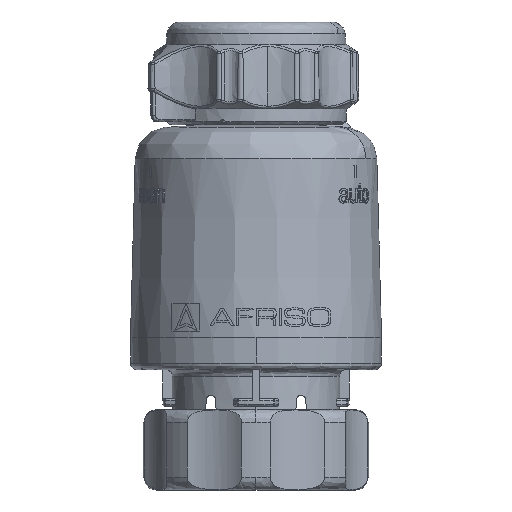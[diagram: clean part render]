
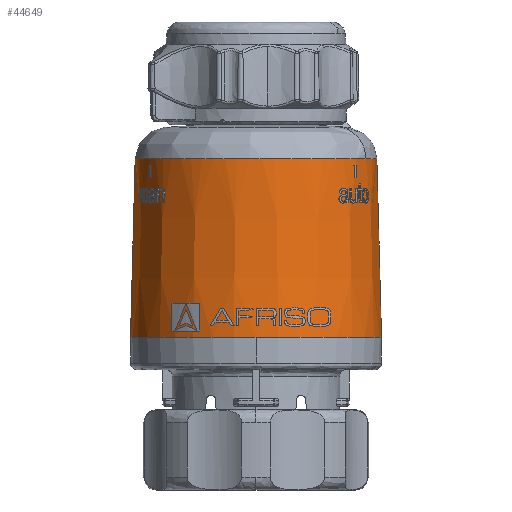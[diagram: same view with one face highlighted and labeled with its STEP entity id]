
A CAD part, front view. The second image highlights one B-rep face of the part: STEP entity #44649.
In plain terms, the highlighted conical face has half-angle 1.5 degrees and reference radius 19.5 mm.
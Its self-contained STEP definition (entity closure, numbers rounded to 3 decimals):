
#2328 = CARTESIAN_POINT ( 'NONE',  ( 7.768, 17.09, 32.788 ) ) ;
#2391 = ORIENTED_EDGE ( 'NONE', *, *, #52037, .T. ) ;
#4009 = CARTESIAN_POINT ( 'NONE',  ( 7.768, 17.09, 32.788 ) ) ;
#4424 = ORIENTED_EDGE ( 'NONE', *, *, #9663, .F. ) ;
#5502 = LINE ( 'NONE', #14886, #27766 ) ;
#6295 = B_SPLINE_CURVE_WITH_KNOTS ( 'NONE', 3,
 ( #9936, #43709, #37867, #55098, #54382, #4009 ),
 .UNSPECIFIED., .F., .F.,
 ( 4, 2, 4 ),
 ( 0.75, 0.784, 0.818 ),
 .UNSPECIFIED. ) ;
#7175 = CARTESIAN_POINT ( 'NONE',  ( 0., -18.773, 32.788 ) ) ;
#7513 = CARTESIAN_POINT ( 'NONE',  ( 10.133, -15.945, 32.788 ) ) ;
#8606 = CARTESIAN_POINT ( 'NONE',  ( 17.092, -8.048, 32.788 ) ) ;
#9663 = EDGE_CURVE ( 'NONE', #47340, #33399, #32680, .T. ) ;
#9936 = CARTESIAN_POINT ( 'NONE',  ( 0., 18.773, 32.788 ) ) ;
#11284 = DIRECTION ( 'NONE',  ( 1., 0., 0. ) ) ;
#13070 = CARTESIAN_POINT ( 'NONE',  ( 14.545, 12.057, 32.788 ) ) ;
#13411 = CARTESIAN_POINT ( 'NONE',  ( 11.484, 15.001, 32.788 ) ) ;
#13463 = DIRECTION ( 'NONE',  ( 0., 0., -1. ) ) ;
#14416 = VERTEX_POINT ( 'NONE', #41109 ) ;
#14886 = CARTESIAN_POINT ( 'NONE',  ( 0., -19.5, 5. ) ) ;
#15274 = EDGE_LOOP ( 'NONE', ( #35656, #37317, #2391, #64170, #4424, #53500 ) ) ;
#15826 = CARTESIAN_POINT ( 'NONE',  ( 0., 19.5, 5. ) ) ;
#16789 = CARTESIAN_POINT ( 'NONE',  ( 0., -18.773, 32.788 ) ) ;
#19993 = CARTESIAN_POINT ( 'NONE',  ( 8.252, -16.995, 32.788 ) ) ;
#20694 = CONICAL_SURFACE ( 'NONE', #58220, 19.5, 0.026 ) ;
#24443 = VERTEX_POINT ( 'NONE', #67287 ) ;
#24786 = CARTESIAN_POINT ( 'NONE',  ( 17.897, -6.05, 32.788 ) ) ;
#25398 = CARTESIAN_POINT ( 'NONE',  ( 0., 0., 5. ) ) ;
#25487 = CARTESIAN_POINT ( 'NONE',  ( 18.796, -1.899, 32.788 ) ) ;
#25909 = DIRECTION ( 'NONE',  ( 0., 1., 0. ) ) ;
#26745 = DIRECTION ( 'NONE',  ( 0., 0., -1. ) ) ;
#27766 = VECTOR ( 'NONE', #66500, 1000. ) ;
#30592 = DIRECTION ( 'NONE',  ( 0., 0., -1. ) ) ;
#31447 = FACE_OUTER_BOUND ( 'NONE', #15274, .T. ) ;
#32680 = CIRCLE ( 'NONE', #67996, 19.5 ) ;
#32712 = VERTEX_POINT ( 'NONE', #34151 ) ;
#33399 = VERTEX_POINT ( 'NONE', #69803 ) ;
#33786 = EDGE_CURVE ( 'NONE', #32712, #47340, #70434, .T. ) ;
#34037 = AXIS2_PLACEMENT_3D ( 'NONE', #25398, #30592, #47049 ) ;
#34151 = CARTESIAN_POINT ( 'NONE',  ( 0., 18.773, 32.788 ) ) ;
#35656 = ORIENTED_EDGE ( 'NONE', *, *, #60208, .T. ) ;
#37317 = ORIENTED_EDGE ( 'NONE', *, *, #53850, .T. ) ;
#37867 = CARTESIAN_POINT ( 'NONE',  ( 2.67, 18.629, 32.788 ) ) ;
#40947 = CARTESIAN_POINT ( 'NONE',  ( 15.823, 10.323, 32.788 ) ) ;
#41109 = CARTESIAN_POINT ( 'NONE',  ( 7.768, 17.09, 32.788 ) ) ;
#41653 = CARTESIAN_POINT ( 'NONE',  ( 13.438, -13.279, 32.788 ) ) ;
#42023 = CARTESIAN_POINT ( 'NONE',  ( 9.701, 16.211, 32.788 ) ) ;
#42474 = DIRECTION ( 'NONE',  ( 0., 0.026, -1. ) ) ;
#43709 = CARTESIAN_POINT ( 'NONE',  ( 1.335, 18.772, 32.788 ) ) ;
#44649 = ADVANCED_FACE ( 'NONE', ( #31447 ), #20694, .T. ) ;
#47049 = DIRECTION ( 'NONE',  ( 1., 0., 0. ) ) ;
#47340 = VERTEX_POINT ( 'NONE', #15826 ) ;
#47918 = VECTOR ( 'NONE', #42474, 1000. ) ;
#47971 = B_SPLINE_CURVE_WITH_KNOTS ( 'NONE', 3,
 ( #2328, #42023, #13411, #13070, #40947, #57848, #58189, #58919, #25487, #24786, #8606, #69619, #41653, #7513, #19993, #64078, #64787, #7175 ),
 .UNSPECIFIED., .F., .F.,
 ( 4, 2, 2, 2, 2, 2, 2, 2, 4 ),
 ( 0.818, 0.872, 0.926, 0.98, 1.034, 1.088, 1.142, 1.196, 1.25 ),
 .UNSPECIFIED. ) ;
#50307 = VERTEX_POINT ( 'NONE', #16789 ) ;
#52037 = EDGE_CURVE ( 'NONE', #50307, #24443, #5502, .T. ) ;
#53500 = ORIENTED_EDGE ( 'NONE', *, *, #33786, .F. ) ;
#53850 = EDGE_CURVE ( 'NONE', #14416, #50307, #47971, .T. ) ;
#54248 = EDGE_CURVE ( 'NONE', #33399, #24443, #67992, .T. ) ;
#54382 = CARTESIAN_POINT ( 'NONE',  ( 6.553, 17.642, 32.788 ) ) ;
#55098 = CARTESIAN_POINT ( 'NONE',  ( 5.279, 18.064, 32.788 ) ) ;
#56099 = CARTESIAN_POINT ( 'NONE',  ( 0., 0., 5. ) ) ;
#57848 = CARTESIAN_POINT ( 'NONE',  ( 17.729, 6.527, 32.788 ) ) ;
#58189 = CARTESIAN_POINT ( 'NONE',  ( 18.356, 4.467, 32.788 ) ) ;
#58220 = AXIS2_PLACEMENT_3D ( 'NONE', #58243, #13463, #25909 ) ;
#58243 = CARTESIAN_POINT ( 'NONE',  ( 0., 0., 5. ) ) ;
#58919 = CARTESIAN_POINT ( 'NONE',  ( 18.89, 0.253, 32.788 ) ) ;
#60208 = EDGE_CURVE ( 'NONE', #32712, #14416, #6295, .T. ) ;
#64078 = CARTESIAN_POINT ( 'NONE',  ( 4.247, -18.409, 32.788 ) ) ;
#64170 = ORIENTED_EDGE ( 'NONE', *, *, #54248, .F. ) ;
#64787 = CARTESIAN_POINT ( 'NONE',  ( 2.124, -18.772, 32.788 ) ) ;
#66500 = DIRECTION ( 'NONE',  ( 0., -0.026, -1. ) ) ;
#67287 = CARTESIAN_POINT ( 'NONE',  ( 0., -19.5, 5. ) ) ;
#67992 = CIRCLE ( 'NONE', #34037, 19.5 ) ;
#67996 = AXIS2_PLACEMENT_3D ( 'NONE', #56099, #26745, #11284 ) ;
#69619 = CARTESIAN_POINT ( 'NONE',  ( 14.863, -11.662, 32.788 ) ) ;
#69803 = CARTESIAN_POINT ( 'NONE',  ( 19.5, 0., 5. ) ) ;
#70081 = CARTESIAN_POINT ( 'NONE',  ( 0., 19.5, 5. ) ) ;
#70434 = LINE ( 'NONE', #70081, #47918 ) ;
